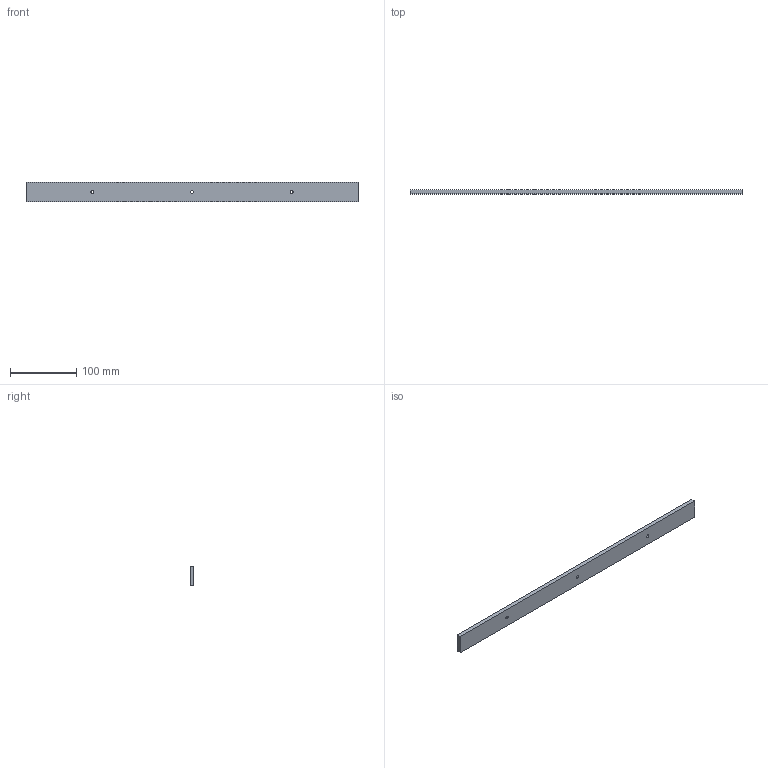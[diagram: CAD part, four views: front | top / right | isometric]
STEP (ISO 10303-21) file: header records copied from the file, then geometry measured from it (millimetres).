
FILE_DESCRIPTION(('Open CASCADE Model'),'2;1');
FILE_NAME('Open CASCADE Shape Model','2026-10-28T04:26:17',('Author'),( 'Open CASCADE'),'Open CASCADE STEP processor 7.8','Open CASCADE 7.8' ,'Unknown');
FILE_SCHEMA(('AUTOMOTIVE_DESIGN { 1 0 10303 214 1 1 1 1 }'));
Length unit declared in the file: millimetre
Products named in the file (1): Open CASCADE STEP translator 7.8 6
Bounding box: 500 x 6 x 30 mm (x, y, z)
Volume: 89713.7 mm3; surface area: 36519 mm2
Topology: 1 solids, 1 shells, 9 faces, 21 edges, 14 vertices
Faces by surface type: plane 6, cylinder 3
Full cylindrical faces by diameter (mm): 4.5 x3
Entity records: 556 total; most frequent: DIRECTION 89, CARTESIAN_POINT 87, LINE 51, VECTOR 51, ORIENTED_EDGE 42, PCURVE 42, DEFINITIONAL_REPRESENTATION 42, EDGE_CURVE 21
